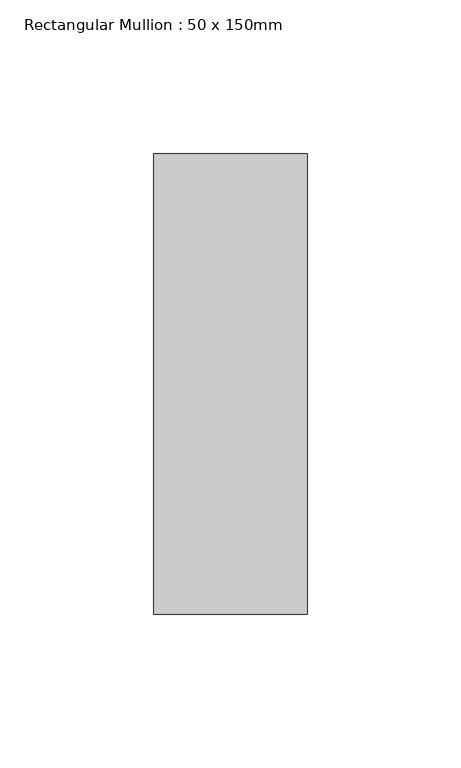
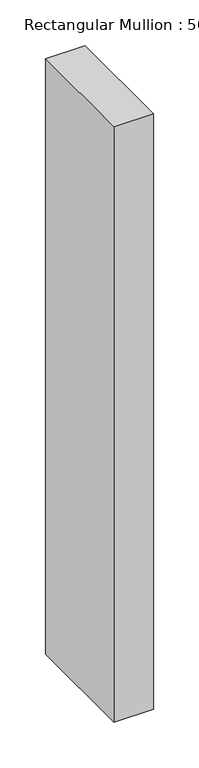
"""IFC4 building model written with IfcOpenShell, lengths in millimetres: member geometry, Rectangular Mullion : 50 x 150mm."""

from ifc_helpers import new_model, si_unit, frame, origin, place, context, project, spatial, polyline, outline, extrude, source, transform, mapped, element, save


def rectangular_mullion_50_x_150mm_5f51f6d8(model_context):
    return source(origin(), model_context, "Body", "SweptSolid", [
        extrude(outline(polyline([(0.0, 75.0), (0.0, -75.0), (-50.0, -75.0), (-50.0, 75.0), (0.0, 75.0)])), frame((0.0, 0.0, -796.3707978), z_axis=(0.0, 0.0, 1.0), x_axis=(1.0, 0.0, 0.0)), (0.0, 0.0, 1.0), 796.3707978),
    ])


if __name__ == "__main__":
    model = new_model("IFC4")
    model_context = context("Model", 3, world=origin())
    ifc_project = project(units=[si_unit("LENGTHUNIT", "METRE", prefix="MILLI")], contexts=[model_context])
    site = spatial("IfcSite", under=ifc_project)
    building = spatial("IfcBuilding", under=site)
    placement = place(None, origin())
    rectangular_mullion_50_x_150mm_shape = rectangular_mullion_50_x_150mm_5f51f6d8(model_context)
    element("IfcMember", 1, ObjectType="Rectangular Mullion : 50 x 150mm", at=placement, inside=building, context=model_context, shape_type="MappedRepresentation", body=[
        mapped(rectangular_mullion_50_x_150mm_shape, transform((0.0, 0.0, 0.0), x_axis=(1.0, 0.0, 0.0), y_axis=(0.0, 1.0, 0.0), z_axis=(0.0, 0.0, 1.0))),
    ])
    save(model, "model.ifc")
